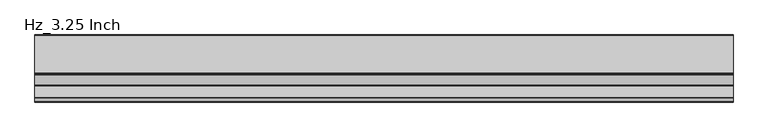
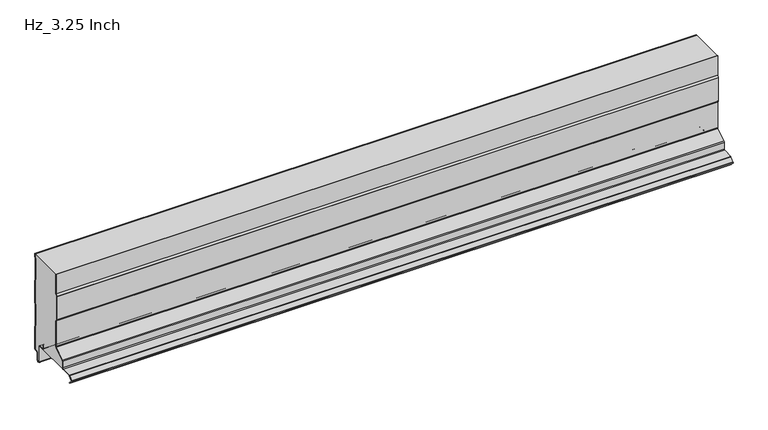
"""IFC4 building model written with IfcOpenShell, lengths in millimetres: plate geometry, KIP_R19_CP_KingSeam_Hz_Roof Panel : Hz_3.25 Inch."""

from ifc_helpers import new_model, si_unit, point, frame, frame_2d, origin, place, context, project, spatial, polyline, circle_curve, trimmed, segment, composite_curve, outline, extrude, source, transform, mapped, element, save


def hz_3_25_inch_1d8aeb74(model_context):
    return source(origin(), model_context, "Body", "SweptSolid", [
        extrude(outline(composite_curve([segment(polyline([(-32.0, 1.9842002), (-32.0, 9.4842002), (-31.2, 9.4842002), (-31.2, 1.9842002)]), True, "CONTINUOUS"), segment(trimmed(circle_curve(frame_2d((-29.7, 1.9842002)), 1.5), [point((-31.2, 1.9842002))], [point((-29.7, 0.4842002))], True, "CARTESIAN"), True, "CONTINUOUS"), segment(polyline([(-29.7, 0.4842002), (-18.5, 0.4842002)]), True, "CONTINUOUS"), segment(trimmed(circle_curve(frame_2d((-18.5, -1.5157998)), 2.0), [point((-18.5, 0.4842002))], [point((-16.5, -1.5157998))], False, "CARTESIAN"), True, "CONTINUOUS"), segment(polyline([(-16.5, -1.5157998), (-16.5, -37.0157998)]), True, "CONTINUOUS"), segment(trimmed(circle_curve(frame_2d((-14.0, -37.0157998)), 2.5), [point((-16.5, -37.0157998))], [point((-14.0, -39.5157998))], True, "CARTESIAN"), True, "CONTINUOUS"), segment(polyline([(-14.0, -39.5157998), (-12.0, -39.5157998)]), True, "CONTINUOUS"), segment(trimmed(circle_curve(frame_2d((-12.0, -37.0157998)), 2.5), [point((-12.0, -39.5157998))], [point((-9.5, -37.0157998))], True, "CARTESIAN"), True, "CONTINUOUS"), segment(polyline([(-9.5, -37.0157998), (-9.5, -21.3)]), True, "CONTINUOUS"), segment(trimmed(circle_curve(frame_2d((-6.5, -21.3)), 3.0), [point((-9.5, -21.3))], [point((-6.5, -18.3))], False, "CARTESIAN"), True, "CONTINUOUS"), segment(polyline([(-6.5, -18.3), (-3.0, -18.3)]), True, "CONTINUOUS"), segment(trimmed(circle_curve(frame_2d((-2.8161925, -16.2437506)), 2.0644483), [point((-3.0, -18.3))], [point((-0.8, -15.8))], True, "CARTESIAN"), True, "CONTINUOUS"), segment(polyline([(-0.8, -15.8), (-0.8, 33.9573226)]), True, "CONTINUOUS"), segment(trimmed(circle_curve(frame_2d((-3.2, 33.9573226)), 2.4), [point((-0.8, 33.9573226))], [point((-0.9968123, 34.9091439))], True, "CARTESIAN"), True, "CONTINUOUS"), segment(polyline([(-0.9968123, 34.9091439), (-2.0293831, 37.2992431)]), True, "CONTINUOUS"), segment(trimmed(circle_curve(frame_2d((1.0, 38.6079974)), 3.3), [point((-2.0293831, 37.2992431))], [point((-2.3, 38.6079974))], False, "CARTESIAN"), True, "CONTINUOUS"), segment(polyline([(-2.3, 38.6079974), (-2.3, 86.9920026)]), True, "CONTINUOUS"), segment(trimmed(circle_curve(frame_2d((1.0, 86.9920026)), 3.3), [point((-2.3, 86.9920026))], [point((-2.0293831, 88.3007569))], False, "CARTESIAN"), True, "CONTINUOUS"), segment(polyline([(-2.0293831, 88.3007569), (-0.9968123, 90.6908561)]), True, "CONTINUOUS"), segment(trimmed(circle_curve(frame_2d((-3.2, 91.6426774)), 2.4), [point((-0.9968123, 90.6908561))], [point((-0.8, 91.6426774))], True, "CARTESIAN"), True, "CONTINUOUS"), segment(polyline([(-0.8, 91.6426774), (-0.8, 140.5573226)]), True, "CONTINUOUS"), segment(trimmed(circle_curve(frame_2d((-3.2, 140.5573226)), 2.4), [point((-0.8, 140.5573226))], [point((-0.9968123, 141.5091439))], True, "CARTESIAN"), True, "CONTINUOUS"), segment(polyline([(-0.9968123, 141.5091439), (-2.0293831, 143.8992431)]), True, "CONTINUOUS"), segment(trimmed(circle_curve(frame_2d((1.0, 145.2079974)), 3.3), [point((-2.0293831, 143.8992431))], [point((-2.3, 145.2079974))], False, "CARTESIAN"), True, "CONTINUOUS"), segment(polyline([(-2.3, 145.2079974), (-2.3, 193.5920026)]), True, "CONTINUOUS"), segment(trimmed(circle_curve(frame_2d((1.0, 193.5920026)), 3.3), [point((-2.3, 193.5920026))], [point((-2.0293831, 194.9007569))], False, "CARTESIAN"), True, "CONTINUOUS"), segment(polyline([(-2.0293831, 194.9007569), (-0.9968123, 197.2908561)]), True, "CONTINUOUS"), segment(trimmed(circle_curve(frame_2d((-3.2, 198.2426774)), 2.4), [point((-0.9968123, 197.2908561))], [point((-0.8, 198.2426774))], True, "CARTESIAN"), True, "CONTINUOUS"), segment(polyline([(-0.8, 198.2426774), (-0.8, 203.2), (0.0, 203.2), (0.0, 198.2426774)]), True, "CONTINUOUS"), segment(trimmed(circle_curve(frame_2d((-3.2, 198.2426774)), 3.2), [point((0.0, 198.2426774))], [point((-0.2624164, 196.9735823))], False, "CARTESIAN"), True, "CONTINUOUS"), segment(polyline([(-0.2624164, 196.9735823), (-1.2949872, 194.5834831)]), True, "CONTINUOUS"), segment(trimmed(circle_curve(frame_2d((1.0, 193.5920026)), 2.5), [point((-1.2949872, 194.5834831))], [point((-1.5, 193.5920026))], True, "CARTESIAN"), True, "CONTINUOUS"), segment(polyline([(-1.5, 193.5920026), (-1.5, 145.2079974)]), True, "CONTINUOUS"), segment(trimmed(circle_curve(frame_2d((1.0, 145.2079974)), 2.5), [point((-1.5, 145.2079974))], [point((-1.2949872, 144.2165169))], True, "CARTESIAN"), True, "CONTINUOUS"), segment(polyline([(-1.2949872, 144.2165169), (-0.2624164, 141.8264177)]), True, "CONTINUOUS"), segment(trimmed(circle_curve(frame_2d((-3.2, 140.5573226)), 3.2), [point((-0.2624164, 141.8264177))], [point((0.0, 140.5573226))], False, "CARTESIAN"), True, "CONTINUOUS"), segment(polyline([(0.0, 140.5573226), (0.0, 91.6426774)]), True, "CONTINUOUS"), segment(trimmed(circle_curve(frame_2d((-3.2, 91.6426774)), 3.2), [point((0.0, 91.6426774))], [point((-0.2624164, 90.3735823))], False, "CARTESIAN"), True, "CONTINUOUS"), segment(polyline([(-0.2624164, 90.3735823), (-1.2949872, 87.9834831)]), True, "CONTINUOUS"), segment(trimmed(circle_curve(frame_2d((1.0, 86.9920026)), 2.5), [point((-1.2949872, 87.9834831))], [point((-1.5, 86.9920026))], True, "CARTESIAN"), True, "CONTINUOUS"), segment(polyline([(-1.5, 86.9920026), (-1.5, 38.6079974)]), True, "CONTINUOUS"), segment(trimmed(circle_curve(frame_2d((1.0, 38.6079974)), 2.5), [point((-1.5, 38.6079974))], [point((-1.2949872, 37.6165169))], True, "CARTESIAN"), True, "CONTINUOUS"), segment(polyline([(-1.2949872, 37.6165169), (-0.2624164, 35.2264177)]), True, "CONTINUOUS"), segment(trimmed(circle_curve(frame_2d((-3.2, 33.9573226)), 3.2), [point((-0.2624164, 35.2264177))], [point((0.0, 33.9573226))], False, "CARTESIAN"), True, "CONTINUOUS"), segment(polyline([(0.0, 33.9573226), (0.0, -15.8)]), True, "CONTINUOUS"), segment(trimmed(circle_curve(frame_2d((-3.0, -15.8)), 3.0), [point((0.0, -15.8))], [point((-3.0, -18.8))], False, "CARTESIAN"), True, "CONTINUOUS"), segment(polyline([(-3.0, -18.8), (-6.5, -18.8)]), True, "CONTINUOUS"), segment(trimmed(circle_curve(frame_2d((-6.5, -21.3)), 2.5), [point((-6.5, -18.8))], [point((-9.0, -21.3))], True, "CARTESIAN"), True, "CONTINUOUS"), segment(polyline([(-9.0, -21.3), (-9.0, -37.0157998)]), True, "CONTINUOUS"), segment(trimmed(circle_curve(frame_2d((-12.0, -37.0157998)), 3.0), [point((-9.0, -37.0157998))], [point((-12.0, -40.0157998))], False, "CARTESIAN"), True, "CONTINUOUS"), segment(polyline([(-12.0, -40.0157998), (-14.0, -40.0157998)]), True, "CONTINUOUS"), segment(trimmed(circle_curve(frame_2d((-14.0, -37.0157998)), 3.0), [point((-14.0, -40.0157998))], [point((-17.0, -37.0157998))], False, "CARTESIAN"), True, "CONTINUOUS"), segment(polyline([(-17.0, -37.0157998), (-17.0, -1.5157998)]), True, "CONTINUOUS"), segment(trimmed(circle_curve(frame_2d((-18.5, -1.5157998)), 1.5), [point((-17.0, -1.5157998))], [point((-18.5, -0.0157998))], True, "CARTESIAN"), True, "CONTINUOUS"), segment(polyline([(-18.5, -0.0157998), (-30.0, -0.0157998)]), True, "CONTINUOUS"), segment(trimmed(circle_curve(frame_2d((-30.0, 1.9842002)), 2.0), [point((-30.0, -0.0157998))], [point((-32.0, 1.9842002))], False, "CARTESIAN"), True, "CONTINUOUS")], self_intersect=False)), frame((-723.9042608, 0.0, 0.0), z_axis=(1.0, 0.0, 0.0), x_axis=(0.0, 1.0, 0.0)), (0.0, 0.0, 1.0), 1447.8085217),
        extrude(outline(composite_curve([segment(polyline([(-82.7658084, 154.7942706), (-80.265881, 158.2539642), (-80.265881, 203.2), (-79.7658803, 203.2), (-79.7658803, 158.2539652), (-82.2658083, 154.7942705)]), True, "CONTINUOUS"), segment(trimmed(circle_curve(frame_2d((-81.0499997, 153.9157438)), 1.4999999), [point((-82.2658083, 154.7942705))], [point((-82.5499996, 153.9157438))], True, "CARTESIAN"), True, "CONTINUOUS"), segment(polyline([(-82.5499996, 153.9157438), (-82.5499996, 100.1657439)]), True, "CONTINUOUS"), segment(trimmed(circle_curve(frame_2d((-81.0499999, 100.1657439)), 1.4999998), [point((-82.5499996, 100.1657439))], [point((-82.2658084, 99.2872174))], True, "CARTESIAN"), True, "CONTINUOUS"), segment(polyline([(-82.2658084, 99.2872174), (-79.7658803, 95.8275223), (-79.7658803, 36.653595)]), True, "CONTINUOUS"), segment(trimmed(circle_curve(frame_2d((-82.2658801, 36.653595)), 2.4999998), [point((-79.7658803, 36.653595))], [point((-80.8865748, 34.5685253))], False, "CARTESIAN"), True, "CONTINUOUS"), segment(polyline([(-80.8865748, 34.5685253), (-103.869325, 19.3650868)]), True, "CONTINUOUS"), segment(trimmed(circle_curve(frame_2d((-102.7658806, 17.6970309)), 2.0), [point((-103.869325, 19.3650868))], [point((-104.7658806, 17.6970309))], True, "CARTESIAN"), True, "CONTINUOUS"), segment(polyline([(-104.7658806, 17.6970309), (-104.7658806, 2.1407443)]), True, "CONTINUOUS"), segment(trimmed(circle_curve(frame_2d((-106.8658807, 2.1407443)), 2.1000001), [point((-104.7658806, 2.1407443))], [point((-106.8658807, 0.0407443))], False, "CARTESIAN"), True, "CONTINUOUS"), segment(polyline([(-106.8658807, 0.0407443), (-129.8005141, 0.0407443)]), True, "CONTINUOUS"), segment(trimmed(circle_curve(frame_2d((-129.8005141, -1.4592557)), 1.5), [point((-129.8005141, 0.0407443))], [point((-130.8611742, -0.3985956))], True, "CARTESIAN"), True, "CONTINUOUS"), segment(polyline([(-130.8611742, -0.3985956), (-138.3809954, -7.9184168)]), True, "CONTINUOUS"), segment(trimmed(circle_curve(frame_2d((-137.3512712, -8.4443275)), 1.15625), [point((-138.3809954, -7.9184168))], [point((-138.1688634, -9.2619197))], True, "CARTESIAN"), True, "CONTINUOUS"), segment(polyline([(-138.1688634, -9.2619197), (-130.8149529, -16.6158302), (-131.3806383, -17.1815156), (-138.7345488, -9.8276051)]), True, "CONTINUOUS"), segment(trimmed(circle_curve(frame_2d((-137.603178, -8.6962342)), 1.6), [point((-138.7345488, -9.8276051))], [point((-138.7345488, -7.5648634))], False, "CARTESIAN"), True, "CONTINUOUS"), segment(polyline([(-138.7345488, -7.5648634), (-131.2147276, -0.0450422)]), True, "CONTINUOUS"), segment(trimmed(circle_curve(frame_2d((-129.8005141, -1.4592557)), 2.0), [point((-131.2147276, -0.0450422))], [point((-129.8005141, 0.5407443))], False, "CARTESIAN"), True, "CONTINUOUS"), segment(polyline([(-129.8005141, 0.5407443), (-106.8658807, 0.5407443)]), True, "CONTINUOUS"), segment(trimmed(circle_curve(frame_2d((-106.8658807, 2.1407444)), 1.6000001), [point((-106.8658807, 0.5407443))], [point((-105.2658806, 2.1407444))], True, "CARTESIAN"), True, "CONTINUOUS"), segment(polyline([(-105.2658806, 2.1407444), (-105.2658806, 17.6970309)]), True, "CONTINUOUS"), segment(trimmed(circle_curve(frame_2d((-102.7658806, 17.6970309)), 2.4999999), [point((-105.2658806, 17.6970309))], [point((-104.1451861, 19.7821007))], False, "CARTESIAN"), True, "CONTINUOUS"), segment(polyline([(-104.1451861, 19.7821007), (-81.162436, 34.9855395)]), True, "CONTINUOUS"), segment(trimmed(circle_curve(frame_2d((-82.2658801, 36.653595)), 1.9999995), [point((-81.162436, 34.9855395))], [point((-80.2658806, 36.653595))], True, "CARTESIAN"), True, "CONTINUOUS"), segment(polyline([(-80.2658806, 36.653595), (-80.2658806, 95.8275223), (-82.7658088, 99.2872172)]), True, "CONTINUOUS"), segment(trimmed(circle_curve(frame_2d((-81.5500001, 100.1657439)), 1.5), [point((-82.7658088, 99.2872172))], [point((-83.0499997, 100.1667153))], False, "CARTESIAN"), True, "CONTINUOUS"), segment(polyline([(-83.0499997, 100.1667153), (-83.0499997, 153.9157439)]), True, "CONTINUOUS"), segment(trimmed(circle_curve(frame_2d((-81.5499998, 153.9157439)), 1.5), [point((-83.0499997, 153.9157439))], [point((-82.7658084, 154.7942706))], False, "CARTESIAN"), True, "CONTINUOUS")], self_intersect=False)), frame((-723.9042608, 0.0, 0.0), z_axis=(1.0, 0.0, 0.0), x_axis=(0.0, 1.0, 0.0)), (0.0, 0.0, 1.0), 1447.8085217),
        extrude(outline(composite_curve([segment(polyline([(-79.7658807, 158.2132216), (-79.7658807, 203.2), (-0.7999994, 203.2), (-0.7999994, 198.2584774)]), True, "CONTINUOUS"), segment(trimmed(circle_curve(frame_2d((-3.1999994, 198.2584774)), 2.4), [point((-0.7999994, 198.2584774))], [point((-0.9968117, 197.306656))], False, "CARTESIAN"), True, "CONTINUOUS"), segment(polyline([(-0.9968117, 197.306656), (-2.0293826, 194.9165568)]), True, "CONTINUOUS"), segment(trimmed(circle_curve(frame_2d((1.0000006, 193.6078025)), 3.3), [point((-2.0293826, 194.9165568))], [point((-2.2999994, 193.6078025))], True, "CARTESIAN"), True, "CONTINUOUS"), segment(polyline([(-2.2999994, 193.6078025), (-2.2999994, 145.2237974)]), True, "CONTINUOUS"), segment(trimmed(circle_curve(frame_2d((1.0000006, 145.2237974)), 3.3), [point((-2.2999994, 145.2237974))], [point((-2.0293826, 143.915043))], True, "CARTESIAN"), True, "CONTINUOUS"), segment(polyline([(-2.0293826, 143.915043), (-0.9968117, 141.5249438)]), True, "CONTINUOUS"), segment(trimmed(circle_curve(frame_2d((-3.1999994, 140.5731225)), 2.4), [point((-0.9968117, 141.5249438))], [point((-0.7999994, 140.5731225))], False, "CARTESIAN"), True, "CONTINUOUS"), segment(polyline([(-0.7999994, 140.5731225), (-0.7999994, 91.6584774)]), True, "CONTINUOUS"), segment(trimmed(circle_curve(frame_2d((-3.1999994, 91.6584774)), 2.4), [point((-0.7999994, 91.6584774))], [point((-0.9968117, 90.706656))], False, "CARTESIAN"), True, "CONTINUOUS"), segment(polyline([(-0.9968117, 90.706656), (-2.0293826, 88.3165568)]), True, "CONTINUOUS"), segment(trimmed(circle_curve(frame_2d((1.0000006, 87.0078025)), 3.3), [point((-2.0293826, 88.3165568))], [point((-2.2999994, 87.0078025))], True, "CARTESIAN"), True, "CONTINUOUS"), segment(polyline([(-2.2999994, 87.0078025), (-2.2999994, 38.6237974)]), True, "CONTINUOUS"), segment(trimmed(circle_curve(frame_2d((1.0000006, 38.6237974)), 3.3), [point((-2.2999994, 38.6237974))], [point((-2.0293826, 37.315043))], True, "CARTESIAN"), True, "CONTINUOUS"), segment(polyline([(-2.0293826, 37.315043), (-0.9968117, 34.9249438)]), True, "CONTINUOUS"), segment(trimmed(circle_curve(frame_2d((-3.1999994, 33.9731225)), 2.4), [point((-0.9968117, 34.9249438))], [point((-0.7999994, 33.9731225))], False, "CARTESIAN"), True, "CONTINUOUS"), segment(polyline([(-0.7999994, 33.9731225), (-0.7999994, -15.7842001)]), True, "CONTINUOUS"), segment(trimmed(circle_curve(frame_2d((-2.8161919, -16.2279507)), 2.0644483), [point((-0.7999994, -15.7842001))], [point((-2.9999994, -18.2842001))], False, "CARTESIAN"), True, "CONTINUOUS"), segment(polyline([(-2.9999994, -18.2842001), (-6.4999994, -18.2842001)]), True, "CONTINUOUS"), segment(trimmed(circle_curve(frame_2d((-6.4999994, -21.2842001)), 3.0), [point((-6.4999994, -18.2842001))], [point((-9.4999994, -21.2842001))], True, "CARTESIAN"), True, "CONTINUOUS"), segment(polyline([(-9.4999994, -21.2842001), (-9.4999994, -36.9999998)]), True, "CONTINUOUS"), segment(trimmed(circle_curve(frame_2d((-11.9999994, -36.9999998)), 2.5), [point((-9.4999994, -36.9999998))], [point((-11.9999994, -39.4999998))], False, "CARTESIAN"), True, "CONTINUOUS"), segment(polyline([(-11.9999994, -39.4999998), (-13.9999994, -39.4999998)]), True, "CONTINUOUS"), segment(trimmed(circle_curve(frame_2d((-13.9999994, -36.9999998)), 2.5), [point((-13.9999994, -39.4999998))], [point((-16.4999994, -36.9999998))], False, "CARTESIAN"), True, "CONTINUOUS"), segment(polyline([(-16.4999994, -36.9999998), (-16.4999994, -1.4999998)]), True, "CONTINUOUS"), segment(trimmed(circle_curve(frame_2d((-18.4999994, -1.4999998)), 2.0), [point((-16.4999994, -1.4999998))], [point((-18.4999994, 0.5000002))], True, "CARTESIAN"), True, "CONTINUOUS"), segment(polyline([(-18.4999994, 0.5000002), (-29.6999994, 0.5000002)]), True, "CONTINUOUS"), segment(trimmed(circle_curve(frame_2d((-29.6999994, 2.0000002)), 1.5), [point((-29.6999994, 0.5000002))], [point((-31.1999994, 2.0000002))], False, "CARTESIAN"), True, "CONTINUOUS"), segment(polyline([(-31.1999994, 2.0000002), (-31.1999994, 9.5000002), (-31.9999994, 9.5000002), (-31.9999994, 2.0000002)]), True, "CONTINUOUS"), segment(trimmed(circle_curve(frame_2d((-29.9999994, 2.0000002)), 2.0), [point((-31.9999994, 2.0000002))], [point((-29.9999994, 2e-07))], True, "CARTESIAN"), True, "CONTINUOUS"), segment(polyline([(-29.9999994, 2e-07), (-106.8658809, 2e-07)]), True, "CONTINUOUS"), segment(trimmed(circle_curve(frame_2d((-106.8658809, 2.1)), 2.0999999), [point((-106.8658809, 2e-07))], [point((-104.7658811, 2.1))], True, "CARTESIAN"), True, "CONTINUOUS"), segment(polyline([(-104.7658811, 2.1), (-104.7658811, 17.6562866)]), True, "CONTINUOUS"), segment(trimmed(circle_curve(frame_2d((-102.7658811, 17.6562866)), 2.0), [point((-104.7658811, 17.6562866))], [point((-103.8693254, 19.3243425))], False, "CARTESIAN"), True, "CONTINUOUS"), segment(polyline([(-103.8693254, 19.3243425), (-80.8865754, 34.5277808)]), True, "CONTINUOUS"), segment(trimmed(circle_curve(frame_2d((-82.2658809, 36.6128508)), 2.5000002), [point((-80.8865754, 34.5277808))], [point((-79.7658807, 36.6128508))], True, "CARTESIAN"), True, "CONTINUOUS"), segment(polyline([(-79.7658807, 36.6128508), (-79.7658807, 95.7867785), (-82.265809, 99.2464732)]), True, "CONTINUOUS"), segment(trimmed(circle_curve(frame_2d((-81.0500002, 100.1250001)), 1.5000002), [point((-82.265809, 99.2464732))], [point((-82.5500003, 100.1250001))], False, "CARTESIAN"), True, "CONTINUOUS"), segment(polyline([(-82.5500003, 100.1250001), (-82.5500003, 153.875)]), True, "CONTINUOUS"), segment(trimmed(circle_curve(frame_2d((-81.0500001, 153.875)), 1.5000002), [point((-82.5500003, 153.875))], [point((-82.265809, 154.753527))], False, "CARTESIAN"), True, "CONTINUOUS"), segment(polyline([(-82.265809, 154.753527), (-79.7658807, 158.2132216)]), True, "CONTINUOUS")], self_intersect=False)), frame((-723.9042608, 0.0, 0.0), z_axis=(1.0, 0.0, 0.0), x_axis=(0.0, 1.0, 0.0)), (0.0, 0.0, 1.0), 1447.8085217),
    ])


if __name__ == "__main__":
    model = new_model("IFC4")
    model_context = context("Model", 3, world=origin())
    ifc_project = project(units=[si_unit("LENGTHUNIT", "METRE", prefix="MILLI")], contexts=[model_context])
    site = spatial("IfcSite", under=ifc_project)
    building = spatial("IfcBuilding", under=site)
    placement = place(None, origin())
    hz_3_25_inch_shape = hz_3_25_inch_1d8aeb74(model_context)
    element("IfcPlate", 1, ObjectType="KIP_R19_CP_KingSeam_Hz_Roof Panel : Hz_3.25 Inch", at=placement, inside=building, context=model_context, shape_type="MappedRepresentation", body=[
        mapped(hz_3_25_inch_shape, transform((0.0, 0.0, 0.0), x_axis=(1.0, 0.0, 0.0), y_axis=(0.0, 1.0, 0.0), z_axis=(0.0, 0.0, 1.0))),
    ])
    save(model, "model.ifc")
